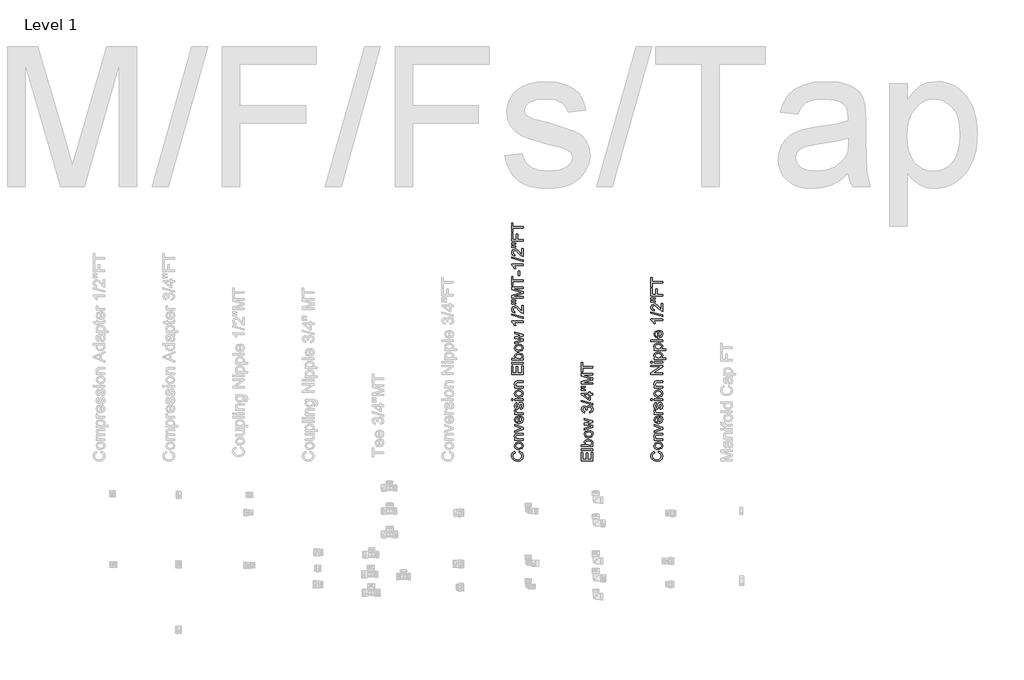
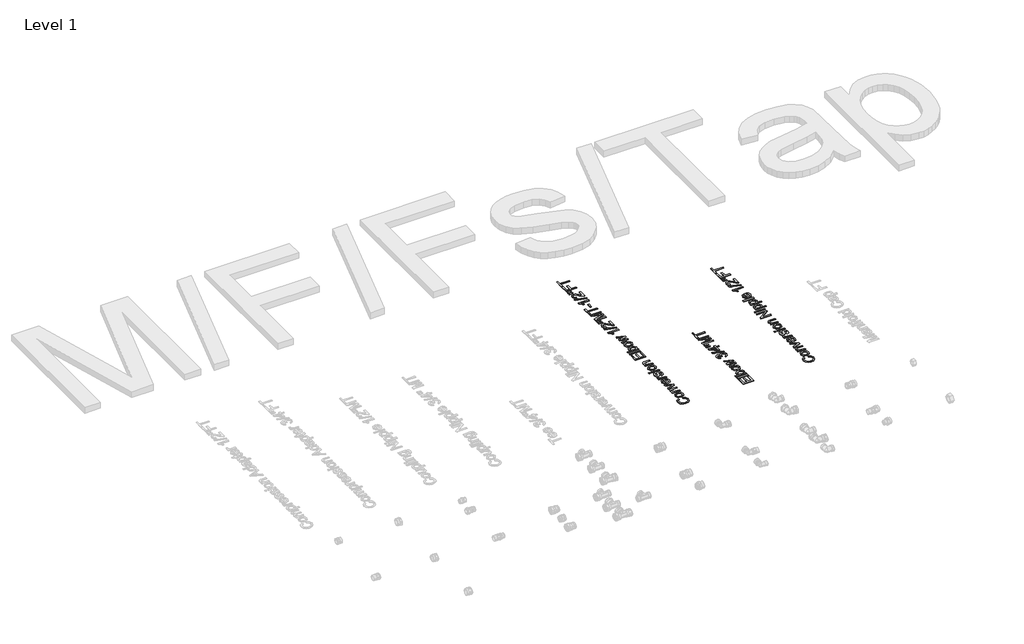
# One storey, part 56 of 57: 3 proxies.
"""IFC4 building model written with IfcOpenShell, lengths in millimetres."""

import ifcopenshell
import ifcopenshell.guid

model = None  # the IFC model being written
_history = None  # IfcOwnerHistory: only IFC2X3 demands one
_inside = {}  # id of a spatial element -> (the spatial element, [elements in it])
_under = {}  # id of a project, library or spatial element -> (it, [spatial elements below it])
_declared = {}  # id of a project -> (the project, [libraries it declares])
_typed = {}  # id of a type object -> (the type object, [elements of that type])
_made_of = {}  # id of a material, layer set ... -> (it, [elements and type objects made of it])


def new_model(schema):
    """Start an empty IFC model of exactly this schema.

    Asked for "IFC4X3", IfcOpenShell would pick the latest addendum, in which some entities
    have other attributes; the version numbers below select the first issue.
    IFC2X3 requires an IfcOwnerHistory on every rooted entity: one is made here for all.
    """
    global model, _history
    if schema == "IFC4X3":
        model = ifcopenshell.file(schema_version=(4, 3, 0, 0))
    else:
        model = ifcopenshell.file(schema=schema)
    _inside.clear()
    _under.clear()
    _declared.clear()
    _typed.clear()
    _made_of.clear()
    _history = None
    if model.schema == "IFC2X3":
        org = make("IfcOrganization", Name="unknown")
        user = make(
            "IfcPersonAndOrganization",
            ThePerson=make("IfcPerson", FamilyName="unknown"),
            TheOrganization=org,
        )
        app = make(
            "IfcApplication",
            ApplicationDeveloper=org,
            Version="unknown",
            ApplicationFullName="unknown",
            ApplicationIdentifier="unknown",
        )
        _history = make(
            "IfcOwnerHistory",
            OwningUser=user,
            OwningApplication=app,
            ChangeAction="ADDED",
            CreationDate=0,
        )
    return model


def make(cls, **values):
    """One entity of the class cls with the attributes given. An attribute that is None is left unset."""
    return model.create_entity(
        cls, **{name: value for name, value in values.items() if value is not None}
    )


def rooted(cls, **values):
    """An entity with a GlobalId (a new one), such as an element, a storey or a relation."""
    return make(cls, GlobalId=ifcopenshell.guid.new(), OwnerHistory=_history, **values)


def si_unit(unit_type, name, prefix=None):
    """IfcSIUnit, for example si_unit("LENGTHUNIT", "METRE", prefix="MILLI")."""
    return make("IfcSIUnit", UnitType=unit_type, Prefix=prefix, Name=name)


def assignment(units):
    """IfcUnitAssignment: the units of a project."""
    return None if units is None else make("IfcUnitAssignment", Units=units)


def point(xyz):
    """IfcCartesianPoint."""
    return None if xyz is None else make("IfcCartesianPoint", Coordinates=xyz)


def direction(xyz):
    """IfcDirection."""
    return None if xyz is None else make("IfcDirection", DirectionRatios=xyz)


def frame(location, z_axis=None, x_axis=None):
    """IfcAxis2Placement3D, a coordinate frame: its origin and axes. An axis left out is left unset."""
    return make(
        "IfcAxis2Placement3D",
        Location=point(location),
        Axis=direction(z_axis),
        RefDirection=direction(x_axis),
    )


def origin():
    """The frame at (0, 0, 0) with its axes left unset."""
    return frame((0.0, 0.0, 0.0))


def place(relative_to, where):
    """IfcLocalPlacement: puts the frame where relative to a parent placement (None: the world)."""
    return make(
        "IfcLocalPlacement", PlacementRelTo=relative_to, RelativePlacement=where
    )


def context(
    kind, dimensions, precision=None, world=None, true_north=None, identifier=None
):
    """IfcGeometricRepresentationContext, for example the 3D "Model" context."""
    return make(
        "IfcGeometricRepresentationContext",
        ContextIdentifier=identifier,
        ContextType=kind,
        CoordinateSpaceDimension=dimensions,
        Precision=precision,
        WorldCoordinateSystem=world,
        TrueNorth=true_north,
    )


def project(units=None, contexts=None):
    """IfcProject with its units and contexts."""
    return rooted(
        "IfcProject",
        Name="project",
        RepresentationContexts=contexts,
        UnitsInContext=assignment(units),
    )


def spatial(cls, under=None, at=None, **own):
    """A site, building, storey or space (cls), placed at a placement, below another one or the project."""
    s = rooted(cls, ObjectPlacement=at, **own)
    if under is not None:
        _under.setdefault(under.id(), (under, []))[1].append(s)
    return s


def polyline(points):
    """IfcPolyline through the points."""
    return make("IfcPolyline", Points=[point(p) for p in points])


def outline(outer, holes=None, kind="AREA"):
    """IfcArbitraryClosedProfileDef: a profile drawn as a closed curve; with holes, ...WithVoids."""
    if holes is None:
        return make("IfcArbitraryClosedProfileDef", ProfileType=kind, OuterCurve=outer)
    return make(
        "IfcArbitraryProfileDefWithVoids",
        ProfileType=kind,
        OuterCurve=outer,
        InnerCurves=holes,
    )


def extrude(swept, where, along, depth):
    """IfcExtrudedAreaSolid: the profile swept, set in the frame where, extruded along a direction by depth."""
    return make(
        "IfcExtrudedAreaSolid",
        SweptArea=swept,
        Position=where,
        ExtrudedDirection=direction(along),
        Depth=depth,
    )


def shape(context_of_items, identifier, shape_type, items):
    """IfcShapeRepresentation: the items that make up one representation, for example the "Body"."""
    return make(
        "IfcShapeRepresentation",
        ContextOfItems=context_of_items,
        RepresentationIdentifier=identifier,
        RepresentationType=shape_type,
        Items=items,
    )


def made_of(thing, what):
    """Note that an element or type object is made of a material, layer set ...; save() writes the relation."""
    if what is not None:
        _made_of.setdefault(what.id(), (what, []))[1].append(thing)
    return thing


def element(
    cls,
    number,
    at=None,
    inside=None,
    cuts=None,
    type_object=None,
    material=None,
    context=None,
    identifier="Body",
    shape_type=None,
    held_by="IfcProductDefinitionShape",
    body=None,
    shapes=None,
    **own,
):
    """One element of the class cls, such as IfcWall. Its Tag is "e" and its number.

    at: its placement. inside: the storey or other place that contains it. cuts: it is an
    opening in that element (IfcRelVoidsElement). A single representation is given by context,
    identifier, shape_type and body (its items); several are given by shapes. held_by: the class
    of the entity that holds the representations. save() writes the other relations.
    """
    e = rooted(cls, Tag="e%d" % number, ObjectPlacement=at, **own)
    if body is not None:
        shapes = [shape(context, identifier, shape_type, body)]
    if shapes is not None:
        e.Representation = make(held_by, Representations=shapes)
    if inside is not None:
        _inside.setdefault(inside.id(), (inside, []))[1].append(e)
    if cuts is not None:
        rooted(
            "IfcRelVoidsElement", RelatingBuildingElement=cuts, RelatedOpeningElement=e
        )
    if type_object is not None:
        _typed.setdefault(type_object.id(), (type_object, []))[1].append(e)
    return made_of(e, material)


def aggregate(whole, parts):
    """IfcRelAggregates: a whole, such as a stair, and the parts it consists of."""
    return rooted("IfcRelAggregates", RelatingObject=whole, RelatedObjects=parts)


def save(model, path):
    """Write the relations noted so far, then the file.

    IfcRelAggregates (storeys below a building ...), IfcRelContainedInSpatialStructure (elements
    in a storey), IfcRelDefinesByType, IfcRelAssociatesMaterial and IfcRelDeclares: one each for
    every whole, place, type object, material and project.
    """
    for whole, parts in _under.values():
        aggregate(whole, parts)
    for where, things in _inside.values():
        rooted(
            "IfcRelContainedInSpatialStructure",
            RelatedElements=things,
            RelatingStructure=where,
        )
    for kind, things in _typed.values():
        rooted("IfcRelDefinesByType", RelatedObjects=things, RelatingType=kind)
    for what, things in _made_of.values():
        rooted("IfcRelAssociatesMaterial", RelatedObjects=things, RelatingMaterial=what)
    for by, libraries in _declared.values():
        rooted("IfcRelDeclares", RelatingContext=by, RelatedDefinitions=libraries)
    model.write(path)


model = new_model("IFC4")

# Units and contexts
model_context = context("Model", 3, world=origin())
ifc_project = project(units=[si_unit("LENGTHUNIT", "METRE", prefix="MILLI")], contexts=[model_context])

# Site, building, storey
site = spatial("IfcSite", under=ifc_project)
building = spatial("IfcBuilding", under=site)
storey = spatial("IfcBuildingStorey", under=building, Name="Level 1", Elevation=27.3876384)

# Proxies
placement = place(None, origin())
element("IfcBuildingElementProxy", 1, Name="50mm Arial", ObjectType="50mm Arial", at=placement, inside=storey, context=model_context, shape_type="SweptSolid", body=[
    extrude(outline(polyline([(34201.2871867, 30442.127966), (34202.9058675, 30448.4064854), (34215.5671395, 30440.9630064), (34219.9265411, 30427.8173564), (34216.6278659, 30414.7514142), (34207.0751967, 30407.087206), (34193.6475039, 30404.4568497), (34179.9990819, 30407.4305625), (34171.1515199, 30415.8857171), (34168.1287562, 30427.9522465), (34172.0405681, 30440.5276794), (34183.0525025, 30447.6216705), (34184.5485559, 30441.3431511), (34176.8291654, 30436.1928032), (34174.4072756, 30427.7069918), (34177.0928141, 30417.8845426), (34184.3033012, 30412.3356558), (34193.6352412, 30410.7353691), (34204.4509718, 30412.6299614), (34211.361022, 30418.5283361), (34213.6480217, 30427.191957), (34210.5332875, 30436.7998085), (34201.2871867, 30442.127966)])), frame((0.0, 0.0, 27.3876384), z_axis=(0.0, 0.0, 1.0), x_axis=(1.0, 0.0, 0.0)), (0.0, 0.0, 1.0), 2.0),
    extrude(outline(polyline([(34200.6985755, 30454.6850048), (34191.8050283, 30456.0431025), (34185.5541, 30460.1173956), (34181.4706099, 30471.1783809), (34186.4431482, 30483.0425753), (34200.1835407, 30487.6472316), (34211.3548906, 30485.6116179), (34217.6763296, 30479.6825864), (34219.9265411, 30471.1783809), (34214.9723969, 30459.2406102), (34200.6985755, 30454.6850048)]), holes=[polyline([(34200.6863128, 30460.9635242), (34210.4167915, 30463.869792), (34213.6480217, 30471.1783809), (34210.3983974, 30478.4624444), (34200.490109, 30481.3687122), (34190.9803594, 30478.4440503), (34187.7491293, 30471.1783809), (34190.9680967, 30463.869792), (34200.6863128, 30460.9635242)])]), frame((0.0, 0.0, 27.3876384), z_axis=(0.0, 0.0, 1.0), x_axis=(1.0, 0.0, 0.0)), (0.0, 0.0, 1.0), 2.0),
    extrude(outline(polyline([(34219.1417262, 30494.7105659), (34182.2554248, 30494.7105659), (34182.2554248, 30500.9890853), (34187.4057727, 30500.9890853), (34182.9544006, 30505.7899453), (34181.4706099, 30512.3443762), (34182.6662264, 30518.2734077), (34185.805486, 30522.3201096), (34190.4224051, 30524.2024392), (34196.492458, 30524.533533), (34219.1417262, 30524.533533), (34219.1417262, 30518.2550136), (34197.3385866, 30518.2550136), (34191.7835685, 30517.5315123), (34188.8466439, 30514.9747325), (34187.7491293, 30510.6643817), (34190.2139386, 30503.8524335), (34199.570404, 30500.9890853), (34219.1417262, 30500.9890853), (34219.1417262, 30494.7105659)])), frame((0.0, 0.0, 27.3876384), z_axis=(0.0, 0.0, 1.0), x_axis=(1.0, 0.0, 0.0)), (0.0, 0.0, 1.0), 2.0),
    extrude(outline(polyline([(34219.1417262, 30542.2163942), (34182.2554248, 30529.2424225), (34182.2554248, 30535.8888239), (34204.35287, 30543.7492358), (34211.7840863, 30546.1159433), (34204.7698029, 30548.4335999), (34182.2554248, 30556.3430628), (34182.2554248, 30562.9894642), (34219.1417262, 30550.174908), (34219.1417262, 30542.2163942)])), frame((0.0, 0.0, 27.3876384), z_axis=(0.0, 0.0, 1.0), x_axis=(1.0, 0.0, 0.0)), (0.0, 0.0, 1.0), 2.0),
    extrude(outline(polyline([(34208.1543173, 30594.3084847), (34208.9391322, 30600.4643768), (34217.0447988, 30594.7070235), (34219.9265411, 30583.9832634), (34214.9540028, 30570.947978), (34201.0051438, 30566.1287239), (34186.5964323, 30570.997029), (34181.4706099, 30583.6276441), (34186.5841696, 30595.8965087), (34200.9683556, 30600.6605805), (34202.6606128, 30600.6237923), (34202.6606128, 30572.4072433), (34210.8153304, 30576.0186182), (34213.6480217, 30584.1058907), (34212.3359093, 30590.2617828), (34208.1543173, 30594.3084847)]), holes=[polyline([(34196.3820934, 30572.4072433), (34196.3820934, 30594.3820611), (34190.6921852, 30591.8682008), (34187.7491293, 30583.6031187), (34190.0974427, 30575.8714654), (34196.3820934, 30572.4072433)])]), frame((0.0, 0.0, 27.3876384), z_axis=(0.0, 0.0, 1.0), x_axis=(1.0, 0.0, 0.0)), (0.0, 0.0, 1.0), 2.0),
    extrude(outline(polyline([(34219.1417262, 30606.9390999), (34182.2554248, 30606.9390999), (34182.2554248, 30612.4328043), (34187.7123411, 30612.4328043), (34182.6846205, 30616.3323535), (34181.4706099, 30620.2564281), (34183.4081217, 30626.559473), (34189.0367162, 30624.4625456), (34187.7491293, 30620.0479616), (34188.9876653, 30616.4979004), (34192.4212306, 30614.2354261), (34199.754345, 30613.2176193), (34219.1417262, 30613.2176193), (34219.1417262, 30606.9390999)])), frame((0.0, 0.0, 27.3876384), z_axis=(0.0, 0.0, 1.0), x_axis=(1.0, 0.0, 0.0)), (0.0, 0.0, 1.0), 2.0),
    extrude(outline(polyline([(34208.1543173, 30628.1291028), (34207.3695023, 30634.4076222), (34212.0293409, 30637.31389), (34213.6480217, 30643.9725541), (34212.164231, 30650.3737008), (34208.6816148, 30652.4583654), (34205.8611862, 30650.361438), (34204.0708271, 30643.8989777), (34200.9990124, 30634.4444104), (34197.412163, 30630.3180007), (34192.3476542, 30628.9139177), (34187.6694215, 30630.0420892), (34184.0948348, 30633.1200352), (34182.2370307, 30637.1115549), (34181.4706099, 30642.5132888), (34182.7030146, 30650.1529716), (34186.038478, 30655.0090139), (34191.6732039, 30657.167255), (34192.4580188, 30650.8887356), (34188.9937967, 30648.5281594), (34187.7491293, 30643.0037981), (34188.9386144, 30636.9950589), (34191.7099921, 30635.1924371), (34193.5371393, 30635.9404638), (34194.9228282, 30638.2826459), (34196.2594661, 30643.6905112), (34199.2147848, 30652.9059552), (34202.5625109, 30657.1856491), (34208.0194272, 30658.7368848), (34214.0281664, 30656.9158689), (34218.3875681, 30651.6612878), (34219.9265411, 30643.8867149), (34216.9589597, 30632.9360942), (34208.1543173, 30628.1291028)])), frame((0.0, 0.0, 27.3876384), z_axis=(0.0, 0.0, 1.0), x_axis=(1.0, 0.0, 0.0)), (0.0, 0.0, 1.0), 2.0),
    extrude(outline(polyline([(34219.1417262, 30665.8002191), (34182.2554248, 30665.8002191), (34182.2554248, 30672.0787385), (34219.1417262, 30672.0787385), (34219.1417262, 30665.8002191)])), frame((0.0, 0.0, 27.3876384), z_axis=(0.0, 0.0, 1.0), x_axis=(1.0, 0.0, 0.0)), (0.0, 0.0, 1.0), 2.0),
    extrude(outline(polyline([(34175.1920905, 30665.8002191), (34168.9135711, 30665.8002191), (34168.9135711, 30672.0787385), (34175.1920905, 30672.0787385), (34175.1920905, 30665.8002191)])), frame((0.0, 0.0, 27.3876384), z_axis=(0.0, 0.0, 1.0), x_axis=(1.0, 0.0, 0.0)), (0.0, 0.0, 1.0), 2.0),
    extrude(outline(polyline([(34200.6985755, 30679.9268877), (34191.8050283, 30681.2849854), (34185.5541, 30685.3592785), (34181.4706099, 30696.4202638), (34186.4431482, 30708.2844582), (34200.1835407, 30712.8891145), (34211.3548906, 30710.8535008), (34217.6763296, 30704.9244693), (34219.9265411, 30696.4202638), (34214.9723969, 30684.4824931), (34200.6985755, 30679.9268877)]), holes=[polyline([(34200.6863128, 30686.2054071), (34210.4167915, 30689.1116749), (34213.6480217, 30696.4202638), (34210.3983974, 30703.7043274), (34200.490109, 30706.6105951), (34190.9803594, 30703.6859333), (34187.7491293, 30696.4202638), (34190.9680967, 30689.1116749), (34200.6863128, 30686.2054071)])]), frame((0.0, 0.0, 27.3876384), z_axis=(0.0, 0.0, 1.0), x_axis=(1.0, 0.0, 0.0)), (0.0, 0.0, 1.0), 2.0),
    extrude(outline(polyline([(34219.1417262, 30719.9524488), (34182.2554248, 30719.9524488), (34182.2554248, 30726.2309682), (34187.4057727, 30726.2309682), (34182.9544006, 30731.0318282), (34181.4706099, 30737.5862591), (34182.6662264, 30743.5152906), (34185.805486, 30747.5619925), (34190.4224051, 30749.4443221), (34196.492458, 30749.7754159), (34219.1417262, 30749.7754159), (34219.1417262, 30743.4968965), (34197.3385866, 30743.4968965), (34191.7835685, 30742.7733952), (34188.8466439, 30740.2166154), (34187.7491293, 30735.9062647), (34190.2139386, 30729.0943164), (34199.570404, 30726.2309682), (34219.1417262, 30726.2309682), (34219.1417262, 30719.9524488)])), frame((0.0, 0.0, 27.3876384), z_axis=(0.0, 0.0, 1.0), x_axis=(1.0, 0.0, 0.0)), (0.0, 0.0, 1.0), 2.0),
    extrude(outline(polyline([(34219.1417262, 30778.813568), (34168.9135711, 30778.813568), (34168.9135711, 30814.9150545), (34175.1920905, 30814.9150545), (34175.1920905, 30785.0920874), (34190.103574, 30785.0920874), (34190.103574, 30813.3454246), (34196.3820934, 30813.3454246), (34196.3820934, 30785.0920874), (34212.8632068, 30785.0920874), (34212.8632068, 30815.6998694), (34219.1417262, 30815.6998694), (34219.1417262, 30778.813568)])), frame((0.0, 0.0, 27.3876384), z_axis=(0.0, 0.0, 1.0), x_axis=(1.0, 0.0, 0.0)), (0.0, 0.0, 1.0), 2.0),
    extrude(outline(polyline([(34219.1417262, 30824.3328336), (34168.9135711, 30824.3328336), (34168.9135711, 30830.611353), (34219.1417262, 30830.611353), (34219.1417262, 30824.3328336)])), frame((0.0, 0.0, 27.3876384), z_axis=(0.0, 0.0, 1.0), x_axis=(1.0, 0.0, 0.0)), (0.0, 0.0, 1.0), 2.0),
    extrude(outline(polyline([(34219.1417262, 30846.3076514), (34219.1417262, 30840.029132), (34168.9135711, 30840.029132), (34168.9135711, 30846.3076514), (34187.5406628, 30846.3076514), (34181.4706099, 30856.1668889), (34182.8379046, 30862.457671), (34186.6822715, 30867.3382388), (34192.6603539, 30870.3364771), (34200.1467525, 30871.421729), (34214.7639304, 30866.9274372), (34219.9265411, 30856.1301007), (34218.2618751, 30850.5474914), (34213.267877, 30846.3076514), (34219.1417262, 30846.3076514)]), holes=[polyline([(34200.4410581, 30846.3076514), (34209.221175, 30848.0244341), (34213.6480217, 30855.5905404), (34210.3861347, 30862.3105182), (34200.6617873, 30865.1432096), (34190.9006517, 30862.4270142), (34187.7491293, 30855.8603206), (34191.0110163, 30849.1403428), (34200.4410581, 30846.3076514)])]), frame((0.0, 0.0, 27.3876384), z_axis=(0.0, 0.0, 1.0), x_axis=(1.0, 0.0, 0.0)), (0.0, 0.0, 1.0), 2.0),
    extrude(outline(polyline([(34200.6985755, 30876.9154334), (34191.8050283, 30878.2735311), (34185.5541, 30882.3478242), (34181.4706099, 30893.4088095), (34186.4431482, 30905.2730039), (34200.1835407, 30909.8776602), (34211.3548906, 30907.8420465), (34217.6763296, 30901.913015), (34219.9265411, 30893.4088095), (34214.9723969, 30881.4710388), (34200.6985755, 30876.9154334)]), holes=[polyline([(34200.6863128, 30883.1939528), (34210.4167915, 30886.1002206), (34213.6480217, 30893.4088095), (34210.3983974, 30900.692873), (34200.490109, 30903.5991408), (34190.9803594, 30900.6744789), (34187.7491293, 30893.4088095), (34190.9680967, 30886.1002206), (34200.6863128, 30883.1939528)])]), frame((0.0, 0.0, 27.3876384), z_axis=(0.0, 0.0, 1.0), x_axis=(1.0, 0.0, 0.0)), (0.0, 0.0, 1.0), 2.0),
    extrude(outline(polyline([(34219.1417262, 30923.0600983), (34182.2554248, 30911.8396975), (34182.2554248, 30918.3634715), (34203.7765215, 30924.7278301), (34211.4652552, 30926.6285537), (34204.0585644, 30928.1859208), (34182.2554248, 30933.2504296), (34182.2554248, 30940.7306968), (34203.9972507, 30945.7706802), (34210.7049658, 30947.156369), (34203.6293687, 30949.1429318), (34182.2554248, 30955.519553), (34182.2554248, 30962.0678526), (34219.1417262, 30950.7616126), (34219.1417262, 30943.1709807), (34197.5102649, 30938.3517266), (34190.7657616, 30936.953775), (34219.1417262, 30930.7365693), (34219.1417262, 30923.0600983)])), frame((0.0, 0.0, 27.3876384), z_axis=(0.0, 0.0, 1.0), x_axis=(1.0, 0.0, 0.0)), (0.0, 0.0, 1.0), 2.0),
    extrude(outline(polyline([(34219.1417262, 31007.9795256), (34219.1417262, 31001.7010062), (34179.9990819, 31001.7010062), (34184.2358562, 30995.7535806), (34187.4057727, 30989.1439674), (34181.4706099, 30989.1439674), (34175.5967607, 30998.3471487), (34168.9135711, 31003.9328236), (34168.9135711, 31007.9795256), (34219.1417262, 31007.9795256)])), frame((0.0, 0.0, 27.3876384), z_axis=(0.0, 0.0, 1.0), x_axis=(1.0, 0.0, 0.0)), (0.0, 0.0, 1.0), 2.0),
    extrude(outline(polyline([(34219.1417262, 31019.7517494), (34168.9135711, 31033.878418), (34168.9135711, 31039.5438007), (34219.1417262, 31025.4171321), (34219.1417262, 31019.7517494)])), frame((0.0, 0.0, 27.3876384), z_axis=(0.0, 0.0, 1.0), x_axis=(1.0, 0.0, 0.0)), (0.0, 0.0, 1.0), 2.0),
    extrude(outline(polyline([(34212.8632068, 31074.688794), (34219.1417262, 31074.688794), (34219.1417262, 31041.7265673), (34214.8129814, 31042.4010176), (34208.1481859, 31046.2147276), (34200.8702538, 31054.0751396), (34190.4101424, 31064.9153957), (34183.2977571, 31067.6254597), (34177.5404039, 31065.0686798), (34175.1920905, 31058.3916216), (34177.4852216, 31051.4325206), (34183.8250546, 31048.7899016), (34183.0402397, 31042.5113822), (34172.5310774, 31047.3245049), (34168.9135711, 31058.5265117), (34172.9357476, 31069.7653067), (34182.9176124, 31073.9039791), (34188.8711693, 31072.7880704), (34195.0270614, 31069.0785936), (34203.6293687, 31060.0838788), (34209.6687648, 31052.861129), (34212.8632068, 31050.0284376), (34212.8632068, 31074.688794)])), frame((0.0, 0.0, 27.3876384), z_axis=(0.0, 0.0, 1.0), x_axis=(1.0, 0.0, 0.0)), (0.0, 0.0, 1.0), 2.0),
    extrude(outline(polyline([(34186.9643143, 31095.0204056), (34177.2644924, 31093.5243522), (34168.9135711, 31093.5243522), (34168.9135711, 31099.8028716), (34177.2644924, 31099.8028716), (34186.9643143, 31098.3313436), (34186.9643143, 31095.0204056)])), frame((0.0, 0.0, 27.3876384), z_axis=(0.0, 0.0, 1.0), x_axis=(1.0, 0.0, 0.0)), (0.0, 0.0, 1.0), 2.0),
    extrude(outline(polyline([(34186.9643143, 31082.5001551), (34177.2644924, 31080.9673134), (34168.9135711, 31080.9673134), (34168.9135711, 31087.2458328), (34177.2644924, 31087.2458328), (34186.9643143, 31085.8724067), (34186.9643143, 31082.5001551)])), frame((0.0, 0.0, 27.3876384), z_axis=(0.0, 0.0, 1.0), x_axis=(1.0, 0.0, 0.0)), (0.0, 0.0, 1.0), 2.0),
    extrude(outline(polyline([(34219.1417262, 31108.4358357), (34168.9135711, 31108.4358357), (34168.9135711, 31119.2393036), (34204.3160818, 31129.515474), (34211.7105099, 31131.5878759), (34203.7029451, 31133.8319561), (34168.9135711, 31143.9364482), (34168.9135711, 31154.7399162), (34219.1417262, 31154.7399162), (34219.1417262, 31148.4613968), (34175.1920905, 31148.4613968), (34219.1417262, 31135.8430444), (34219.1417262, 31127.3327075), (34175.1920905, 31114.7143551), (34219.1417262, 31114.7143551), (34219.1417262, 31108.4358357)])), frame((0.0, 0.0, 27.3876384), z_axis=(0.0, 0.0, 1.0), x_axis=(1.0, 0.0, 0.0)), (0.0, 0.0, 1.0), 2.0),
    extrude(outline(polyline([(34219.1417262, 31178.2843639), (34175.1920905, 31178.2843639), (34175.1920905, 31161.8032505), (34168.9135711, 31161.8032505), (34168.9135711, 31201.0439966), (34175.1920905, 31201.0439966), (34175.1920905, 31184.5628832), (34219.1417262, 31184.5628832), (34219.1417262, 31178.2843639)])), frame((0.0, 0.0, 27.3876384), z_axis=(0.0, 0.0, 1.0), x_axis=(1.0, 0.0, 0.0)), (0.0, 0.0, 1.0), 2.0),
    extrude(outline(polyline([(34204.2302426, 31204.1832563), (34197.9517233, 31204.1832563), (34197.9517233, 31223.8036294), (34204.2302426, 31223.8036294), (34204.2302426, 31204.1832563)])), frame((0.0, 0.0, 27.3876384), z_axis=(0.0, 0.0, 1.0), x_axis=(1.0, 0.0, 0.0)), (0.0, 0.0, 1.0), 2.0),
    extrude(outline(polyline([(34219.1417262, 31252.8417816), (34219.1417262, 31246.5632622), (34179.9990819, 31246.5632622), (34184.2358562, 31240.6158366), (34187.4057727, 31234.0062234), (34181.4706099, 31234.0062234), (34175.5967607, 31243.2094046), (34168.9135711, 31248.7950796), (34168.9135711, 31252.8417816), (34219.1417262, 31252.8417816)])), frame((0.0, 0.0, 27.3876384), z_axis=(0.0, 0.0, 1.0), x_axis=(1.0, 0.0, 0.0)), (0.0, 0.0, 1.0), 2.0),
    extrude(outline(polyline([(34219.1417262, 31264.6140054), (34168.9135711, 31278.740674), (34168.9135711, 31284.4060567), (34219.1417262, 31270.2793881), (34219.1417262, 31264.6140054)])), frame((0.0, 0.0, 27.3876384), z_axis=(0.0, 0.0, 1.0), x_axis=(1.0, 0.0, 0.0)), (0.0, 0.0, 1.0), 2.0),
    extrude(outline(polyline([(34212.8632068, 31319.55105), (34219.1417262, 31319.55105), (34219.1417262, 31286.5888232), (34214.8129814, 31287.2632736), (34208.1481859, 31291.0769836), (34200.8702538, 31298.9373955), (34190.4101424, 31309.7776517), (34183.2977571, 31312.4877157), (34177.5404039, 31309.9309358), (34175.1920905, 31303.2538776), (34177.4852216, 31296.2947765), (34183.8250546, 31293.6521575), (34183.0402397, 31287.3736382), (34172.5310774, 31292.1867609), (34168.9135711, 31303.3887677), (34172.9357476, 31314.6275626), (34182.9176124, 31318.7662351), (34188.8711693, 31317.6503264), (34195.0270614, 31313.9408496), (34203.6293687, 31304.9461348), (34209.6687648, 31297.723385), (34212.8632068, 31294.8906936), (34212.8632068, 31319.55105)])), frame((0.0, 0.0, 27.3876384), z_axis=(0.0, 0.0, 1.0), x_axis=(1.0, 0.0, 0.0)), (0.0, 0.0, 1.0), 2.0),
    extrude(outline(polyline([(34186.9643143, 31327.362411), (34177.2644924, 31325.8295694), (34168.9135711, 31325.8295694), (34168.9135711, 31332.1080888), (34177.2644924, 31332.1080888), (34186.9643143, 31330.7346627), (34186.9643143, 31327.362411)])), frame((0.0, 0.0, 27.3876384), z_axis=(0.0, 0.0, 1.0), x_axis=(1.0, 0.0, 0.0)), (0.0, 0.0, 1.0), 2.0),
    extrude(outline(polyline([(34186.9643143, 31339.8826616), (34177.2644924, 31338.3866082), (34168.9135711, 31338.3866082), (34168.9135711, 31344.6651275), (34177.2644924, 31344.6651275), (34186.9643143, 31343.1935996), (34186.9643143, 31339.8826616)])), frame((0.0, 0.0, 27.3876384), z_axis=(0.0, 0.0, 1.0), x_axis=(1.0, 0.0, 0.0)), (0.0, 0.0, 1.0), 2.0),
    extrude(outline(polyline([(34219.1417262, 31353.2980917), (34168.9135711, 31353.2980917), (34168.9135711, 31387.0451334), (34175.1920905, 31387.0451334), (34175.1920905, 31359.5766111), (34190.103574, 31359.5766111), (34190.103574, 31383.1210588), (34196.3820934, 31383.1210588), (34196.3820934, 31359.5766111), (34219.1417262, 31359.5766111), (34219.1417262, 31353.2980917)])), frame((0.0, 0.0, 27.3876384), z_axis=(0.0, 0.0, 1.0), x_axis=(1.0, 0.0, 0.0)), (0.0, 0.0, 1.0), 2.0),
    extrude(outline(polyline([(34219.1417262, 31408.2351363), (34175.1920905, 31408.2351363), (34175.1920905, 31391.7540229), (34168.9135711, 31391.7540229), (34168.9135711, 31430.9947691), (34175.1920905, 31430.9947691), (34175.1920905, 31414.5136557), (34219.1417262, 31414.5136557), (34219.1417262, 31408.2351363)])), frame((0.0, 0.0, 27.3876384), z_axis=(0.0, 0.0, 1.0), x_axis=(1.0, 0.0, 0.0)), (0.0, 0.0, 1.0), 2.0),
])
element("IfcBuildingElementProxy", 2, Name="50mm Arial", ObjectType="50mm Arial", at=placement, inside=storey, context=model_context, shape_type="SweptSolid", body=[
    extrude(outline(polyline([(34519.1417262, 30406.8112945), (34468.9135711, 30406.8112945), (34468.9135711, 30442.912781), (34475.1920905, 30442.912781), (34475.1920905, 30413.0898139), (34490.103574, 30413.0898139), (34490.103574, 30441.3431511), (34496.3820934, 30441.3431511), (34496.3820934, 30413.0898139), (34512.8632068, 30413.0898139), (34512.8632068, 30443.6975959), (34519.1417262, 30443.6975959), (34519.1417262, 30406.8112945)])), frame((0.0, 0.0, 27.3876384), z_axis=(0.0, 0.0, 1.0), x_axis=(1.0, 0.0, 0.0)), (0.0, 0.0, 1.0), 2.0),
    extrude(outline(polyline([(34519.1417262, 30452.33056), (34468.9135711, 30452.33056), (34468.9135711, 30458.6090794), (34519.1417262, 30458.6090794), (34519.1417262, 30452.33056)])), frame((0.0, 0.0, 27.3876384), z_axis=(0.0, 0.0, 1.0), x_axis=(1.0, 0.0, 0.0)), (0.0, 0.0, 1.0), 2.0),
    extrude(outline(polyline([(34519.1417262, 30474.3053779), (34519.1417262, 30468.0268585), (34468.9135711, 30468.0268585), (34468.9135711, 30474.3053779), (34487.5406628, 30474.3053779), (34481.4706099, 30484.1646154), (34482.8379046, 30490.4553975), (34486.6822715, 30495.3359653), (34492.6603539, 30498.3342035), (34500.1467525, 30499.4194554), (34514.7639304, 30494.9251637), (34519.9265411, 30484.1278272), (34518.2618751, 30478.5452179), (34513.267877, 30474.3053779), (34519.1417262, 30474.3053779)]), holes=[polyline([(34500.4410581, 30474.3053779), (34509.221175, 30476.0221605), (34513.6480217, 30483.5882669), (34510.3861347, 30490.3082447), (34500.6617873, 30493.140936), (34490.9006517, 30490.4247406), (34487.7491293, 30483.858047), (34491.0110163, 30477.1380693), (34500.4410581, 30474.3053779)])]), frame((0.0, 0.0, 27.3876384), z_axis=(0.0, 0.0, 1.0), x_axis=(1.0, 0.0, 0.0)), (0.0, 0.0, 1.0), 2.0),
    extrude(outline(polyline([(34500.6985755, 30504.9131599), (34491.8050283, 30506.2712576), (34485.5541, 30510.3455507), (34481.4706099, 30521.406536), (34486.4431482, 30533.2707304), (34500.1835407, 30537.8753867), (34511.3548906, 30535.839773), (34517.6763296, 30529.9107415), (34519.9265411, 30521.406536), (34514.9723969, 30509.4687653), (34500.6985755, 30504.9131599)]), holes=[polyline([(34500.6863128, 30511.1916793), (34510.4167915, 30514.097947), (34513.6480217, 30521.406536), (34510.3983974, 30528.6905995), (34500.490109, 30531.5968673), (34490.9803594, 30528.6722054), (34487.7491293, 30521.406536), (34490.9680967, 30514.097947), (34500.6863128, 30511.1916793)])]), frame((0.0, 0.0, 27.3876384), z_axis=(0.0, 0.0, 1.0), x_axis=(1.0, 0.0, 0.0)), (0.0, 0.0, 1.0), 2.0),
    extrude(outline(polyline([(34519.1417262, 30551.0578248), (34482.2554248, 30539.837424), (34482.2554248, 30546.361198), (34503.7765215, 30552.7255565), (34511.4652552, 30554.6262802), (34504.0585644, 30556.1836473), (34482.2554248, 30561.2481561), (34482.2554248, 30568.7284233), (34503.9972507, 30573.7684067), (34510.7049658, 30575.1540955), (34503.6293687, 30577.1406583), (34482.2554248, 30583.5172795), (34482.2554248, 30590.065579), (34519.1417262, 30578.7593391), (34519.1417262, 30571.1687072), (34497.5102649, 30566.3494531), (34490.7657616, 30564.9515015), (34519.1417262, 30558.7342958), (34519.1417262, 30551.0578248)])), frame((0.0, 0.0, 27.3876384), z_axis=(0.0, 0.0, 1.0), x_axis=(1.0, 0.0, 0.0)), (0.0, 0.0, 1.0), 2.0),
    extrude(outline(polyline([(34505.7998725, 30612.4328043), (34505.0150576, 30618.7113237), (34511.6246707, 30622.1755459), (34513.6480217, 30628.6564003), (34510.8643813, 30636.2838204), (34503.9727252, 30639.1165117), (34497.479608, 30636.3083458), (34494.9105654, 30629.1714351), (34495.5972785, 30624.7691139), (34489.3187591, 30625.4680897), (34487.5897137, 30633.5982818), (34482.0469583, 30636.762067), (34477.1357337, 30634.4689359), (34475.1920905, 30628.5582985), (34477.1541278, 30622.5740847), (34483.0402397, 30619.4961387), (34482.2554248, 30613.2176193), (34472.4084501, 30618.3557045), (34468.9135711, 30628.3375693), (34470.6364851, 30635.909807), (34475.3453747, 30641.2073077), (34481.6790763, 30643.0405863), (34487.4670864, 30641.2992782), (34491.6241529, 30636.1489303), (34495.9161095, 30642.9915354), (34504.0830898, 30645.3950311), (34515.3157534, 30640.5880397), (34519.9265411, 30628.4356711), (34515.9902038, 30617.4237367), (34505.7998725, 30612.4328043)])), frame((0.0, 0.0, 27.3876384), z_axis=(0.0, 0.0, 1.0), x_axis=(1.0, 0.0, 0.0)), (0.0, 0.0, 1.0), 2.0),
    extrude(outline(polyline([(34519.1417262, 30647.7494759), (34468.9135711, 30661.8761445), (34468.9135711, 30667.5415272), (34519.1417262, 30653.4148586), (34519.1417262, 30647.7494759)])), frame((0.0, 0.0, 27.3876384), z_axis=(0.0, 0.0, 1.0), x_axis=(1.0, 0.0, 0.0)), (0.0, 0.0, 1.0), 2.0),
    extrude(outline(polyline([(34519.1417262, 30690.9142967), (34507.3695023, 30690.9142967), (34507.3695023, 30668.1546639), (34501.0909829, 30668.1546639), (34469.698386, 30692.4839265), (34469.698386, 30697.192816), (34501.0909829, 30697.192816), (34501.0909829, 30703.4713354), (34507.3695023, 30703.4713354), (34507.3695023, 30697.192816), (34519.1417262, 30697.192816), (34519.1417262, 30690.9142967)]), holes=[polyline([(34501.0909829, 30690.9142967), (34481.6913391, 30690.9142967), (34501.0909829, 30675.8801858), (34501.0909829, 30690.9142967)])]), frame((0.0, 0.0, 27.3876384), z_axis=(0.0, 0.0, 1.0), x_axis=(1.0, 0.0, 0.0)), (0.0, 0.0, 1.0), 2.0),
    extrude(outline(polyline([(34486.9643143, 30723.0181321), (34477.2644924, 30721.5220787), (34468.9135711, 30721.5220787), (34468.9135711, 30727.800598), (34477.2644924, 30727.800598), (34486.9643143, 30726.3290701), (34486.9643143, 30723.0181321)])), frame((0.0, 0.0, 27.3876384), z_axis=(0.0, 0.0, 1.0), x_axis=(1.0, 0.0, 0.0)), (0.0, 0.0, 1.0), 2.0),
    extrude(outline(polyline([(34486.9643143, 30710.4978815), (34477.2644924, 30708.9650399), (34468.9135711, 30708.9650399), (34468.9135711, 30715.2435593), (34477.2644924, 30715.2435593), (34486.9643143, 30713.8701332), (34486.9643143, 30710.4978815)])), frame((0.0, 0.0, 27.3876384), z_axis=(0.0, 0.0, 1.0), x_axis=(1.0, 0.0, 0.0)), (0.0, 0.0, 1.0), 2.0),
    extrude(outline(polyline([(34519.1417262, 30736.4335622), (34468.9135711, 30736.4335622), (34468.9135711, 30747.2370301), (34504.3160818, 30757.5132005), (34511.7105099, 30759.5856024), (34503.7029451, 30761.8296826), (34468.9135711, 30771.9341747), (34468.9135711, 30782.7376426), (34519.1417262, 30782.7376426), (34519.1417262, 30776.4591233), (34475.1920905, 30776.4591233), (34519.1417262, 30763.8407708), (34519.1417262, 30755.330434), (34475.1920905, 30742.7120816), (34519.1417262, 30742.7120816), (34519.1417262, 30736.4335622)])), frame((0.0, 0.0, 27.3876384), z_axis=(0.0, 0.0, 1.0), x_axis=(1.0, 0.0, 0.0)), (0.0, 0.0, 1.0), 2.0),
    extrude(outline(polyline([(34519.1417262, 30806.2820903), (34475.1920905, 30806.2820903), (34475.1920905, 30789.800977), (34468.9135711, 30789.800977), (34468.9135711, 30829.0417231), (34475.1920905, 30829.0417231), (34475.1920905, 30812.5606097), (34519.1417262, 30812.5606097), (34519.1417262, 30806.2820903)])), frame((0.0, 0.0, 27.3876384), z_axis=(0.0, 0.0, 1.0), x_axis=(1.0, 0.0, 0.0)), (0.0, 0.0, 1.0), 2.0),
])
element("IfcBuildingElementProxy", 3, Name="50mm Arial", ObjectType="50mm Arial", at=placement, inside=storey, context=model_context, shape_type="SweptSolid", body=[
    extrude(outline(polyline([(34801.2871867, 30442.127966), (34802.9058675, 30448.4064854), (34815.5671395, 30440.9630064), (34819.9265411, 30427.8173564), (34816.6278659, 30414.7514142), (34807.0751967, 30407.087206), (34793.6475039, 30404.4568497), (34779.9990819, 30407.4305625), (34771.1515199, 30415.8857171), (34768.1287562, 30427.9522465), (34772.0405681, 30440.5276794), (34783.0525025, 30447.6216705), (34784.5485559, 30441.3431511), (34776.8291654, 30436.1928032), (34774.4072756, 30427.7069918), (34777.0928141, 30417.8845426), (34784.3033012, 30412.3356558), (34793.6352412, 30410.7353691), (34804.4509718, 30412.6299614), (34811.361022, 30418.5283361), (34813.6480217, 30427.191957), (34810.5332875, 30436.7998085), (34801.2871867, 30442.127966)])), frame((0.0, 0.0, 27.3876384), z_axis=(0.0, 0.0, 1.0), x_axis=(1.0, 0.0, 0.0)), (0.0, 0.0, 1.0), 2.0),
    extrude(outline(polyline([(34800.6985755, 30454.6850048), (34791.8050283, 30456.0431025), (34785.5541, 30460.1173956), (34781.4706099, 30471.1783809), (34786.4431482, 30483.0425753), (34800.1835407, 30487.6472316), (34811.3548906, 30485.6116179), (34817.6763296, 30479.6825864), (34819.9265411, 30471.1783809), (34814.9723969, 30459.2406102), (34800.6985755, 30454.6850048)]), holes=[polyline([(34800.6863128, 30460.9635242), (34810.4167915, 30463.869792), (34813.6480217, 30471.1783809), (34810.3983974, 30478.4624444), (34800.490109, 30481.3687122), (34790.9803594, 30478.4440503), (34787.7491293, 30471.1783809), (34790.9680967, 30463.869792), (34800.6863128, 30460.9635242)])]), frame((0.0, 0.0, 27.3876384), z_axis=(0.0, 0.0, 1.0), x_axis=(1.0, 0.0, 0.0)), (0.0, 0.0, 1.0), 2.0),
    extrude(outline(polyline([(34819.1417262, 30494.7105659), (34782.2554248, 30494.7105659), (34782.2554248, 30500.9890853), (34787.4057727, 30500.9890853), (34782.9544006, 30505.7899453), (34781.4706099, 30512.3443762), (34782.6662264, 30518.2734077), (34785.805486, 30522.3201096), (34790.4224051, 30524.2024392), (34796.492458, 30524.533533), (34819.1417262, 30524.533533), (34819.1417262, 30518.2550136), (34797.3385866, 30518.2550136), (34791.7835685, 30517.5315123), (34788.8466439, 30514.9747325), (34787.7491293, 30510.6643817), (34790.2139386, 30503.8524335), (34799.570404, 30500.9890853), (34819.1417262, 30500.9890853), (34819.1417262, 30494.7105659)])), frame((0.0, 0.0, 27.3876384), z_axis=(0.0, 0.0, 1.0), x_axis=(1.0, 0.0, 0.0)), (0.0, 0.0, 1.0), 2.0),
    extrude(outline(polyline([(34819.1417262, 30542.2163942), (34782.2554248, 30529.2424225), (34782.2554248, 30535.8888239), (34804.35287, 30543.7492358), (34811.7840863, 30546.1159433), (34804.7698029, 30548.4335999), (34782.2554248, 30556.3430628), (34782.2554248, 30562.9894642), (34819.1417262, 30550.174908), (34819.1417262, 30542.2163942)])), frame((0.0, 0.0, 27.3876384), z_axis=(0.0, 0.0, 1.0), x_axis=(1.0, 0.0, 0.0)), (0.0, 0.0, 1.0), 2.0),
    extrude(outline(polyline([(34808.1543173, 30594.3084847), (34808.9391322, 30600.4643768), (34817.0447988, 30594.7070235), (34819.9265411, 30583.9832634), (34814.9540028, 30570.947978), (34801.0051438, 30566.1287239), (34786.5964323, 30570.997029), (34781.4706099, 30583.6276441), (34786.5841696, 30595.8965087), (34800.9683556, 30600.6605805), (34802.6606128, 30600.6237923), (34802.6606128, 30572.4072433), (34810.8153304, 30576.0186182), (34813.6480217, 30584.1058907), (34812.3359093, 30590.2617828), (34808.1543173, 30594.3084847)]), holes=[polyline([(34796.3820934, 30572.4072433), (34796.3820934, 30594.3820611), (34790.6921852, 30591.8682008), (34787.7491293, 30583.6031187), (34790.0974427, 30575.8714654), (34796.3820934, 30572.4072433)])]), frame((0.0, 0.0, 27.3876384), z_axis=(0.0, 0.0, 1.0), x_axis=(1.0, 0.0, 0.0)), (0.0, 0.0, 1.0), 2.0),
    extrude(outline(polyline([(34819.1417262, 30606.9390999), (34782.2554248, 30606.9390999), (34782.2554248, 30612.4328043), (34787.7123411, 30612.4328043), (34782.6846205, 30616.3323535), (34781.4706099, 30620.2564281), (34783.4081217, 30626.559473), (34789.0367162, 30624.4625456), (34787.7491293, 30620.0479616), (34788.9876653, 30616.4979004), (34792.4212306, 30614.2354261), (34799.754345, 30613.2176193), (34819.1417262, 30613.2176193), (34819.1417262, 30606.9390999)])), frame((0.0, 0.0, 27.3876384), z_axis=(0.0, 0.0, 1.0), x_axis=(1.0, 0.0, 0.0)), (0.0, 0.0, 1.0), 2.0),
    extrude(outline(polyline([(34808.1543173, 30628.1291028), (34807.3695023, 30634.4076222), (34812.0293409, 30637.31389), (34813.6480217, 30643.9725541), (34812.164231, 30650.3737008), (34808.6816148, 30652.4583654), (34805.8611862, 30650.361438), (34804.0708271, 30643.8989777), (34800.9990124, 30634.4444104), (34797.412163, 30630.3180007), (34792.3476542, 30628.9139177), (34787.6694215, 30630.0420892), (34784.0948348, 30633.1200352), (34782.2370307, 30637.1115549), (34781.4706099, 30642.5132888), (34782.7030146, 30650.1529716), (34786.038478, 30655.0090139), (34791.6732039, 30657.167255), (34792.4580188, 30650.8887356), (34788.9937967, 30648.5281594), (34787.7491293, 30643.0037981), (34788.9386144, 30636.9950589), (34791.7099921, 30635.1924371), (34793.5371393, 30635.9404638), (34794.9228282, 30638.2826459), (34796.2594661, 30643.6905112), (34799.2147848, 30652.9059552), (34802.5625109, 30657.1856491), (34808.0194272, 30658.7368848), (34814.0281664, 30656.9158689), (34818.3875681, 30651.6612878), (34819.9265411, 30643.8867149), (34816.9589597, 30632.9360942), (34808.1543173, 30628.1291028)])), frame((0.0, 0.0, 27.3876384), z_axis=(0.0, 0.0, 1.0), x_axis=(1.0, 0.0, 0.0)), (0.0, 0.0, 1.0), 2.0),
    extrude(outline(polyline([(34819.1417262, 30665.8002191), (34782.2554248, 30665.8002191), (34782.2554248, 30672.0787385), (34819.1417262, 30672.0787385), (34819.1417262, 30665.8002191)])), frame((0.0, 0.0, 27.3876384), z_axis=(0.0, 0.0, 1.0), x_axis=(1.0, 0.0, 0.0)), (0.0, 0.0, 1.0), 2.0),
    extrude(outline(polyline([(34775.1920905, 30665.8002191), (34768.9135711, 30665.8002191), (34768.9135711, 30672.0787385), (34775.1920905, 30672.0787385), (34775.1920905, 30665.8002191)])), frame((0.0, 0.0, 27.3876384), z_axis=(0.0, 0.0, 1.0), x_axis=(1.0, 0.0, 0.0)), (0.0, 0.0, 1.0), 2.0),
    extrude(outline(polyline([(34800.6985755, 30679.9268877), (34791.8050283, 30681.2849854), (34785.5541, 30685.3592785), (34781.4706099, 30696.4202638), (34786.4431482, 30708.2844582), (34800.1835407, 30712.8891145), (34811.3548906, 30710.8535008), (34817.6763296, 30704.9244693), (34819.9265411, 30696.4202638), (34814.9723969, 30684.4824931), (34800.6985755, 30679.9268877)]), holes=[polyline([(34800.6863128, 30686.2054071), (34810.4167915, 30689.1116749), (34813.6480217, 30696.4202638), (34810.3983974, 30703.7043274), (34800.490109, 30706.6105951), (34790.9803594, 30703.6859333), (34787.7491293, 30696.4202638), (34790.9680967, 30689.1116749), (34800.6863128, 30686.2054071)])]), frame((0.0, 0.0, 27.3876384), z_axis=(0.0, 0.0, 1.0), x_axis=(1.0, 0.0, 0.0)), (0.0, 0.0, 1.0), 2.0),
    extrude(outline(polyline([(34819.1417262, 30719.9524488), (34782.2554248, 30719.9524488), (34782.2554248, 30726.2309682), (34787.4057727, 30726.2309682), (34782.9544006, 30731.0318282), (34781.4706099, 30737.5862591), (34782.6662264, 30743.5152906), (34785.805486, 30747.5619925), (34790.4224051, 30749.4443221), (34796.492458, 30749.7754159), (34819.1417262, 30749.7754159), (34819.1417262, 30743.4968965), (34797.3385866, 30743.4968965), (34791.7835685, 30742.7733952), (34788.8466439, 30740.2166154), (34787.7491293, 30735.9062647), (34790.2139386, 30729.0943164), (34799.570404, 30726.2309682), (34819.1417262, 30726.2309682), (34819.1417262, 30719.9524488)])), frame((0.0, 0.0, 27.3876384), z_axis=(0.0, 0.0, 1.0), x_axis=(1.0, 0.0, 0.0)), (0.0, 0.0, 1.0), 2.0),
    extrude(outline(polyline([(34819.1417262, 30778.813568), (34768.9135711, 30778.813568), (34768.9135711, 30785.5335458), (34808.7061402, 30811.7757948), (34768.9135711, 30811.7757948), (34768.9135711, 30818.0543142), (34819.1417262, 30818.0543142), (34819.1417262, 30811.3343364), (34779.3368943, 30785.0920874), (34819.1417262, 30785.0920874), (34819.1417262, 30778.813568)])), frame((0.0, 0.0, 27.3876384), z_axis=(0.0, 0.0, 1.0), x_axis=(1.0, 0.0, 0.0)), (0.0, 0.0, 1.0), 2.0),
    extrude(outline(polyline([(34819.1417262, 30828.2569082), (34782.2554248, 30828.2569082), (34782.2554248, 30834.5354276), (34819.1417262, 30834.5354276), (34819.1417262, 30828.2569082)])), frame((0.0, 0.0, 27.3876384), z_axis=(0.0, 0.0, 1.0), x_axis=(1.0, 0.0, 0.0)), (0.0, 0.0, 1.0), 2.0),
    extrude(outline(polyline([(34775.1920905, 30828.2569082), (34768.9135711, 30828.2569082), (34768.9135711, 30834.5354276), (34775.1920905, 30834.5354276), (34775.1920905, 30828.2569082)])), frame((0.0, 0.0, 27.3876384), z_axis=(0.0, 0.0, 1.0), x_axis=(1.0, 0.0, 0.0)), (0.0, 0.0, 1.0), 2.0),
    extrude(outline(polyline([(34833.2683948, 30843.9532066), (34782.2554248, 30843.9532066), (34782.2554248, 30850.231726), (34788.4113168, 30850.231726), (34783.2057866, 30854.5727336), (34781.4706099, 30860.43432), (34783.898631, 30868.3928339), (34790.7412362, 30873.5922327), (34800.4165326, 30875.3458036), (34810.5884698, 30873.3653722), (34817.516914, 30867.6141503), (34819.9265411, 30859.6740306), (34818.3139917, 30854.2109829), (34814.2366329, 30850.231726), (34833.2683948, 30850.231726), (34833.2683948, 30843.9532066)]), holes=[polyline([(34800.9928811, 30850.231726), (34810.557813, 30852.9479214), (34813.6480217, 30859.5391405), (34810.4474484, 30866.2652497), (34800.5268972, 30869.0672842), (34790.9374399, 30866.3326947), (34787.7491293, 30859.7966579), (34791.139775, 30853.1318624), (34800.9928811, 30850.231726)])]), frame((0.0, 0.0, 27.3876384), z_axis=(0.0, 0.0, 1.0), x_axis=(1.0, 0.0, 0.0)), (0.0, 0.0, 1.0), 2.0),
    extrude(outline(polyline([(34833.2683948, 30882.4091379), (34782.2554248, 30882.4091379), (34782.2554248, 30888.6876573), (34788.4113168, 30888.6876573), (34783.2057866, 30893.0286648), (34781.4706099, 30898.8902513), (34783.898631, 30906.8487651), (34790.7412362, 30912.048164), (34800.4165326, 30913.8017348), (34810.5884698, 30911.8213034), (34817.516914, 30906.0700815), (34819.9265411, 30898.1299618), (34818.3139917, 30892.6669142), (34814.2366329, 30888.6876573), (34833.2683948, 30888.6876573), (34833.2683948, 30882.4091379)]), holes=[polyline([(34800.9928811, 30888.6876573), (34810.557813, 30891.4038527), (34813.6480217, 30897.9950717), (34810.4474484, 30904.7211809), (34800.5268972, 30907.5232154), (34790.9374399, 30904.7886259), (34787.7491293, 30898.2525891), (34791.139775, 30891.5877937), (34800.9928811, 30888.6876573)])]), frame((0.0, 0.0, 27.3876384), z_axis=(0.0, 0.0, 1.0), x_axis=(1.0, 0.0, 0.0)), (0.0, 0.0, 1.0), 2.0),
    extrude(outline(polyline([(34819.1417262, 30920.8650691), (34768.9135711, 30920.8650691), (34768.9135711, 30927.1435885), (34819.1417262, 30927.1435885), (34819.1417262, 30920.8650691)])), frame((0.0, 0.0, 27.3876384), z_axis=(0.0, 0.0, 1.0), x_axis=(1.0, 0.0, 0.0)), (0.0, 0.0, 1.0), 2.0),
    extrude(outline(polyline([(34808.1543173, 30962.3866836), (34808.9391322, 30968.5425757), (34817.0447988, 30962.7852225), (34819.9265411, 30952.0614623), (34814.9540028, 30939.0261769), (34801.0051438, 30934.2069228), (34786.5964323, 30939.0752279), (34781.4706099, 30951.705843), (34786.5841696, 30963.9747076), (34800.9683556, 30968.7387794), (34802.6606128, 30968.7019912), (34802.6606128, 30940.4854422), (34810.8153304, 30944.0968171), (34813.6480217, 30952.1840896), (34812.3359093, 30958.3399817), (34808.1543173, 30962.3866836)]), holes=[polyline([(34796.3820934, 30940.4854422), (34796.3820934, 30962.46026), (34790.6921852, 30959.9463997), (34787.7491293, 30951.6813176), (34790.0974427, 30943.9496643), (34796.3820934, 30940.4854422)])]), frame((0.0, 0.0, 27.3876384), z_axis=(0.0, 0.0, 1.0), x_axis=(1.0, 0.0, 0.0)), (0.0, 0.0, 1.0), 2.0),
    extrude(outline(polyline([(34819.1417262, 31016.6124897), (34819.1417262, 31010.3339703), (34779.9990819, 31010.3339703), (34784.2358562, 31004.3865447), (34787.4057727, 30997.7769316), (34781.4706099, 30997.7769316), (34775.5967607, 31006.9801128), (34768.9135711, 31012.5657878), (34768.9135711, 31016.6124897), (34819.1417262, 31016.6124897)])), frame((0.0, 0.0, 27.3876384), z_axis=(0.0, 0.0, 1.0), x_axis=(1.0, 0.0, 0.0)), (0.0, 0.0, 1.0), 2.0),
    extrude(outline(polyline([(34819.1417262, 31028.3847136), (34768.9135711, 31042.5113822), (34768.9135711, 31048.1767649), (34819.1417262, 31034.0500963), (34819.1417262, 31028.3847136)])), frame((0.0, 0.0, 27.3876384), z_axis=(0.0, 0.0, 1.0), x_axis=(1.0, 0.0, 0.0)), (0.0, 0.0, 1.0), 2.0),
    extrude(outline(polyline([(34812.8632068, 31083.3217582), (34819.1417262, 31083.3217582), (34819.1417262, 31050.3595314), (34814.8129814, 31051.0339817), (34808.1481859, 31054.8476917), (34800.8702538, 31062.7081037), (34790.4101424, 31073.5483598), (34783.2977571, 31076.2584239), (34777.5404039, 31073.701644), (34775.1920905, 31067.0245858), (34777.4852216, 31060.0654847), (34783.8250546, 31057.4228657), (34783.0402397, 31051.1443463), (34772.5310774, 31055.9574691), (34768.9135711, 31067.1594759), (34772.9357476, 31078.3982708), (34782.9176124, 31082.5369433), (34788.8711693, 31081.4210345), (34795.0270614, 31077.7115577), (34803.6293687, 31068.716843), (34809.6687648, 31061.4940931), (34812.8632068, 31058.6614018), (34812.8632068, 31083.3217582)])), frame((0.0, 0.0, 27.3876384), z_axis=(0.0, 0.0, 1.0), x_axis=(1.0, 0.0, 0.0)), (0.0, 0.0, 1.0), 2.0),
    extrude(outline(polyline([(34786.9643143, 31103.6533698), (34777.2644924, 31102.1573163), (34768.9135711, 31102.1573163), (34768.9135711, 31108.4358357), (34777.2644924, 31108.4358357), (34786.9643143, 31106.9643077), (34786.9643143, 31103.6533698)])), frame((0.0, 0.0, 27.3876384), z_axis=(0.0, 0.0, 1.0), x_axis=(1.0, 0.0, 0.0)), (0.0, 0.0, 1.0), 2.0),
    extrude(outline(polyline([(34786.9643143, 31091.1331192), (34777.2644924, 31089.6002776), (34768.9135711, 31089.6002776), (34768.9135711, 31095.8787969), (34777.2644924, 31095.8787969), (34786.9643143, 31094.5053708), (34786.9643143, 31091.1331192)])), frame((0.0, 0.0, 27.3876384), z_axis=(0.0, 0.0, 1.0), x_axis=(1.0, 0.0, 0.0)), (0.0, 0.0, 1.0), 2.0),
    extrude(outline(polyline([(34819.1417262, 31117.0687999), (34768.9135711, 31117.0687999), (34768.9135711, 31150.8158416), (34775.1920905, 31150.8158416), (34775.1920905, 31123.3473192), (34790.103574, 31123.3473192), (34790.103574, 31146.8917669), (34796.3820934, 31146.8917669), (34796.3820934, 31123.3473192), (34819.1417262, 31123.3473192), (34819.1417262, 31117.0687999)])), frame((0.0, 0.0, 27.3876384), z_axis=(0.0, 0.0, 1.0), x_axis=(1.0, 0.0, 0.0)), (0.0, 0.0, 1.0), 2.0),
    extrude(outline(polyline([(34819.1417262, 31172.0058445), (34775.1920905, 31172.0058445), (34775.1920905, 31155.5247311), (34768.9135711, 31155.5247311), (34768.9135711, 31194.7654772), (34775.1920905, 31194.7654772), (34775.1920905, 31178.2843639), (34819.1417262, 31178.2843639), (34819.1417262, 31172.0058445)])), frame((0.0, 0.0, 27.3876384), z_axis=(0.0, 0.0, 1.0), x_axis=(1.0, 0.0, 0.0)), (0.0, 0.0, 1.0), 2.0),
])

save(model, "model.ifc")
